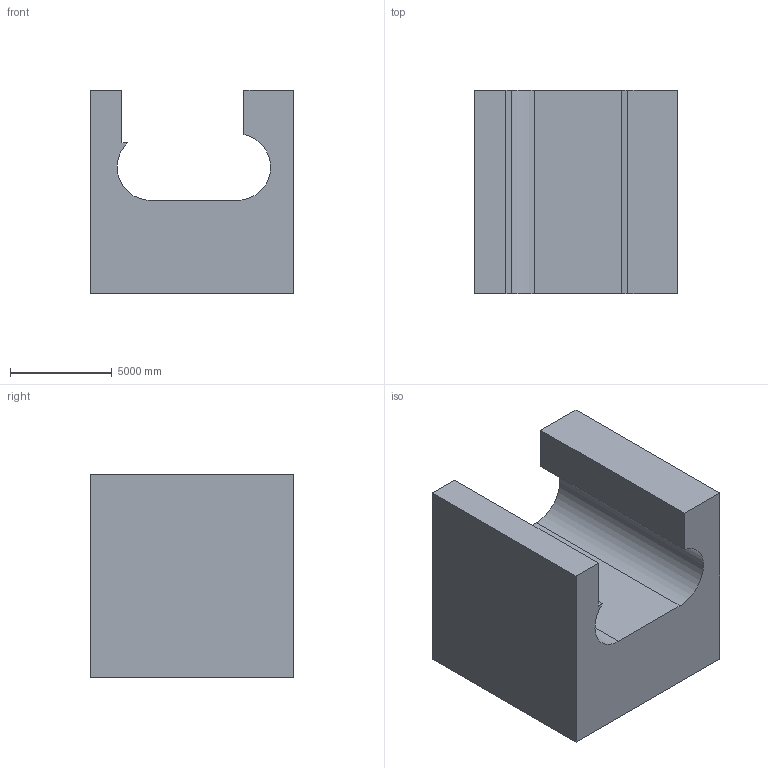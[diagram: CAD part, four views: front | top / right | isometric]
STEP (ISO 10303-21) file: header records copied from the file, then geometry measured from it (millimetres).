
FILE_DESCRIPTION (( 'STEP AP203' ), '1' );
FILE_NAME ('78.STEP', '2022-07-28T13:33:47', ( 'user' ), ( '' ), 'SwSTEP 2.0', 'SolidWorks 2021', '' );
FILE_SCHEMA (( 'CONFIG_CONTROL_DESIGN' ));
Length unit declared in the file: centimetre
Products named in the file (1): 78
Bounding box: 10000 x 10000 x 10000 mm (x, y, z)
Volume: 644935923308.6 mm3; surface area: 649312999.1 mm2
Topology: 1 solids, 1 shells, 13 faces, 33 edges, 22 vertices
Faces by surface type: plane 11, cylinder 2
Entity records: 468 total; most frequent: CARTESIAN_POINT 69, ORIENTED_EDGE 66, DIRECTION 65, EDGE_CURVE 33, LINE 29, VECTOR 29, VERTEX_POINT 22, AXIS2_PLACEMENT_3D 18
